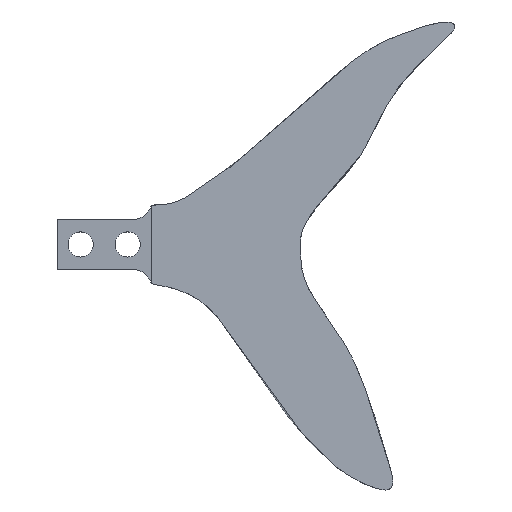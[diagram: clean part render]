
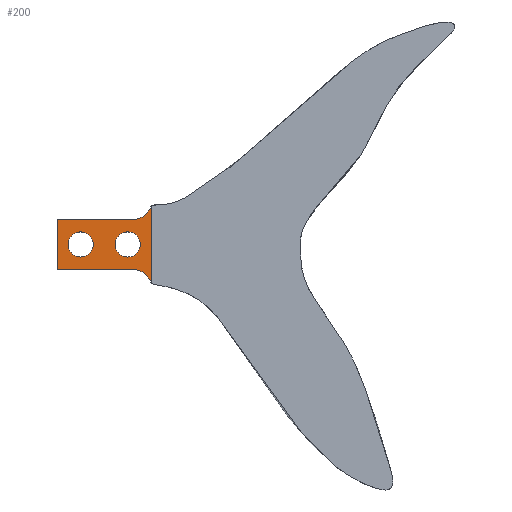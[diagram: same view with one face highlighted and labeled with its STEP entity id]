
A CAD part, top view. The second image highlights one B-rep face of the part: STEP entity #200.
In plain terms, the highlighted planar face has unit normal (0, 0, 1).
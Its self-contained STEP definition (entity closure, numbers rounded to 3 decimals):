
#18=FACE_BOUND('',#47,.T.);
#19=FACE_BOUND('',#48,.T.);
#23=PLANE('',#234);
#34=FACE_OUTER_BOUND('',#46,.T.);
#46=EDGE_LOOP('',(#159,#160,#161,#162,#163,#164));
#47=EDGE_LOOP('',(#165));
#48=EDGE_LOOP('',(#166));
#65=LINE('',#332,#81);
#66=LINE('',#334,#82);
#67=LINE('',#336,#83);
#68=LINE('',#337,#84);
#81=VECTOR('',#276,10.);
#82=VECTOR('',#279,10.);
#83=VECTOR('',#280,10.);
#84=VECTOR('',#281,10.);
#89=CIRCLE('',#222,2.);
#91=CIRCLE('',#225,2.);
#93=CIRCLE('',#228,3.);
#96=CIRCLE('',#232,3.);
#97=VERTEX_POINT('',#298);
#99=VERTEX_POINT('',#304);
#101=VERTEX_POINT('',#310);
#102=VERTEX_POINT('',#311);
#107=VERTEX_POINT('',#322);
#108=VERTEX_POINT('',#324);
#110=VERTEX_POINT('',#330);
#111=VERTEX_POINT('',#335);
#113=EDGE_CURVE('',#97,#97,#89,.T.);
#116=EDGE_CURVE('',#99,#99,#91,.T.);
#119=EDGE_CURVE('',#101,#102,#93,.F.);
#125=EDGE_CURVE('',#107,#108,#96,.T.);
#129=EDGE_CURVE('',#107,#110,#65,.T.);
#130=EDGE_CURVE('',#108,#102,#66,.T.);
#131=EDGE_CURVE('',#111,#110,#67,.T.);
#132=EDGE_CURVE('',#101,#111,#68,.T.);
#159=ORIENTED_EDGE('',*,*,#130,.F.);
#160=ORIENTED_EDGE('',*,*,#125,.F.);
#161=ORIENTED_EDGE('',*,*,#129,.T.);
#162=ORIENTED_EDGE('',*,*,#131,.F.);
#163=ORIENTED_EDGE('',*,*,#132,.F.);
#164=ORIENTED_EDGE('',*,*,#119,.T.);
#165=ORIENTED_EDGE('',*,*,#113,.T.);
#166=ORIENTED_EDGE('',*,*,#116,.T.);
#200=ADVANCED_FACE('',(#34,#18,#19),#23,.T.);
#222=AXIS2_PLACEMENT_3D('',#299,#244,#245);
#225=AXIS2_PLACEMENT_3D('',#305,#251,#252);
#228=AXIS2_PLACEMENT_3D('',#312,#258,#259);
#232=AXIS2_PLACEMENT_3D('',#325,#269,#270);
#234=AXIS2_PLACEMENT_3D('',#333,#277,#278);
#244=DIRECTION('center_axis',(0.,0.,-1.));
#245=DIRECTION('ref_axis',(-1.,0.,0.));
#251=DIRECTION('center_axis',(0.,0.,-1.));
#252=DIRECTION('ref_axis',(-1.,0.,0.));
#258=DIRECTION('center_axis',(0.,0.,1.));
#259=DIRECTION('ref_axis',(0.968,0.25,0.));
#269=DIRECTION('center_axis',(0.,0.,1.));
#270=DIRECTION('ref_axis',(0.968,-0.25,0.));
#276=DIRECTION('',(-1.,0.,0.));
#277=DIRECTION('center_axis',(0.,0.,1.));
#278=DIRECTION('ref_axis',(0.,1.,0.));
#279=DIRECTION('',(0.,-1.,0.));
#280=DIRECTION('',(0.,1.,0.));
#281=DIRECTION('',(-1.,0.,0.));
#298=CARTESIAN_POINT('',(111.885,-33.025,5.));
#299=CARTESIAN_POINT('Origin',(109.885,-33.025,5.));
#304=CARTESIAN_POINT('',(119.385,-33.025,5.));
#305=CARTESIAN_POINT('Origin',(117.385,-33.025,5.));
#310=CARTESIAN_POINT('',(118.23,-37.025,5.));
#311=CARTESIAN_POINT('',(121.135,-39.275,5.));
#312=CARTESIAN_POINT('Origin',(118.23,-40.025,5.));
#322=CARTESIAN_POINT('',(118.23,-29.025,5.));
#324=CARTESIAN_POINT('',(121.135,-26.774,5.));
#325=CARTESIAN_POINT('Origin',(118.23,-26.025,5.));
#330=CARTESIAN_POINT('',(106.135,-29.025,5.));
#332=CARTESIAN_POINT('',(121.135,-29.025,5.));
#333=CARTESIAN_POINT('Origin',(121.135,-37.025,5.));
#334=CARTESIAN_POINT('',(121.135,-39.275,5.));
#335=CARTESIAN_POINT('',(106.135,-37.025,5.));
#336=CARTESIAN_POINT('',(106.135,-39.275,5.));
#337=CARTESIAN_POINT('',(121.135,-37.025,5.));
